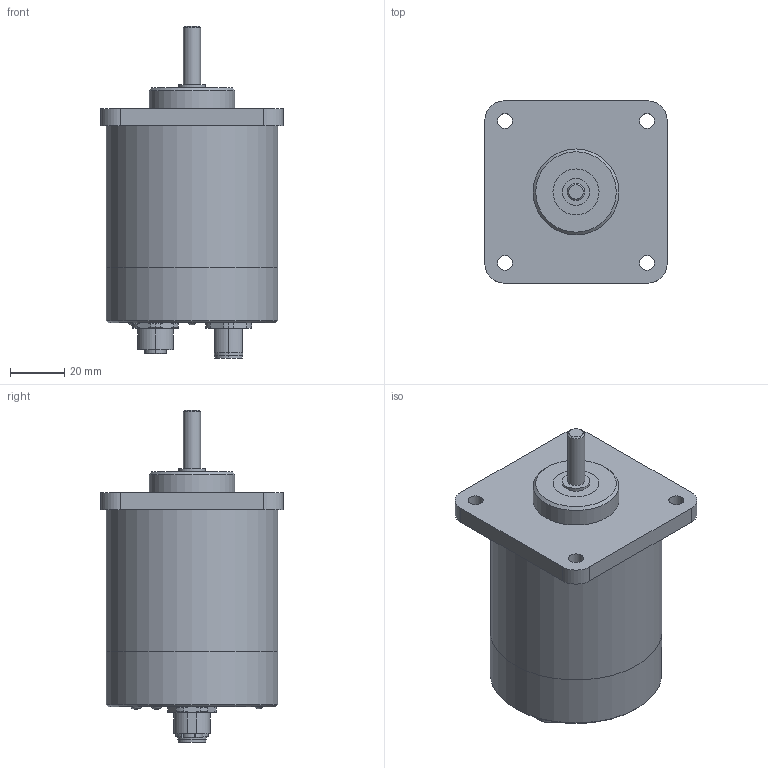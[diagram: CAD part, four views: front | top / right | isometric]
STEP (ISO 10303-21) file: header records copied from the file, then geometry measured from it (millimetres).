
FILE_DESCRIPTION(/* description */ ('Alibre Inc.'),/* implementation_level */ '2;1');
FILE_NAME(/* name */ 'export0',/* time_stamp */ '2010-05-25T09:12:08-04:00',/* author */ (''),/* organization */ (''),/* preprocessor_version */ 'ST-DEVELOPER v10',/* originating_system */ 'Alibre',/* authorisation */ '');
FILE_SCHEMA (('CONFIG_CONTROL_DESIGN'));
Length unit declared in the file: centimetre
Products named in the file (11): ID_1; ID_2; ID_3; ID_4; ID_5; ID_6; ID_7; ID_8; ID_9; ID_10
Bounding box: 67.31 x 67.31 x 122.63 mm (x, y, z)
Volume: 265852.8 mm3; surface area: 49002 mm2
Topology: 11 solids, 11 shells, 282 faces, 619 edges, 399 vertices
Faces by surface type: plane 122, cylinder 113, cone 36, sphere 4, bspline 4, torus 3
Full cylindrical faces by diameter (mm): 2.92 x2, 3 x20, 3.96 x4, 5.537 x4, 6.35 x1, 10 x3, 11.5 x2, 17 x2, 24 x1, 26 x2, 31.75 x1, 58.72 x2, 63.5 x2
Entity records: 8396 total; most frequent: CARTESIAN_POINT 1393, DIRECTION 1240, ORIENTED_EDGE 1084, AXIS2_PLACEMENT_3D 568, EDGE_CURVE 542, EDGE_LOOP 388, FACE_BOUND 388, VERTEX_POINT 382
